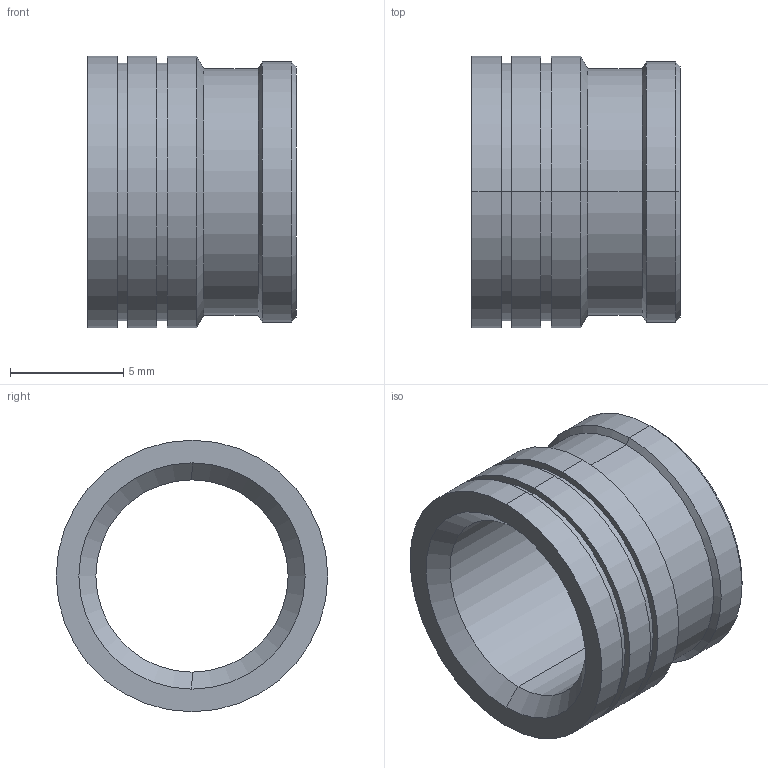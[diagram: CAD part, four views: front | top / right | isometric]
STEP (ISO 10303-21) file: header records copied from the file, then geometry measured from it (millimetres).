
FILE_DESCRIPTION (( 'STEP AP203' ), '1' );
FILE_NAME ('FSUK-MU-M10-S.STEP', '2021-04-15T13:16:31', ( '' ), ( '' ), 'SwSTEP 2.0', 'SolidWorks 2021', '' );
FILE_SCHEMA (( 'CONFIG_CONTROL_DESIGN' ));
Length unit declared in the file: millimetre
Products named in the file (1): FSUK-MU-M10-S
Bounding box: 9.2 x 12 x 12 mm (x, y, z)
Volume: 424.7 mm3; surface area: 718 mm2
Topology: 1 solids, 1 shells, 32 faces, 64 edges, 38 vertices
Faces by surface type: cylinder 16, cone 10, plane 6
Entity records: 915 total; most frequent: DIRECTION 168, CARTESIAN_POINT 135, ORIENTED_EDGE 128, AXIS2_PLACEMENT_3D 71, EDGE_CURVE 64, VERTEX_POINT 38, EDGE_LOOP 38, CIRCLE 38
